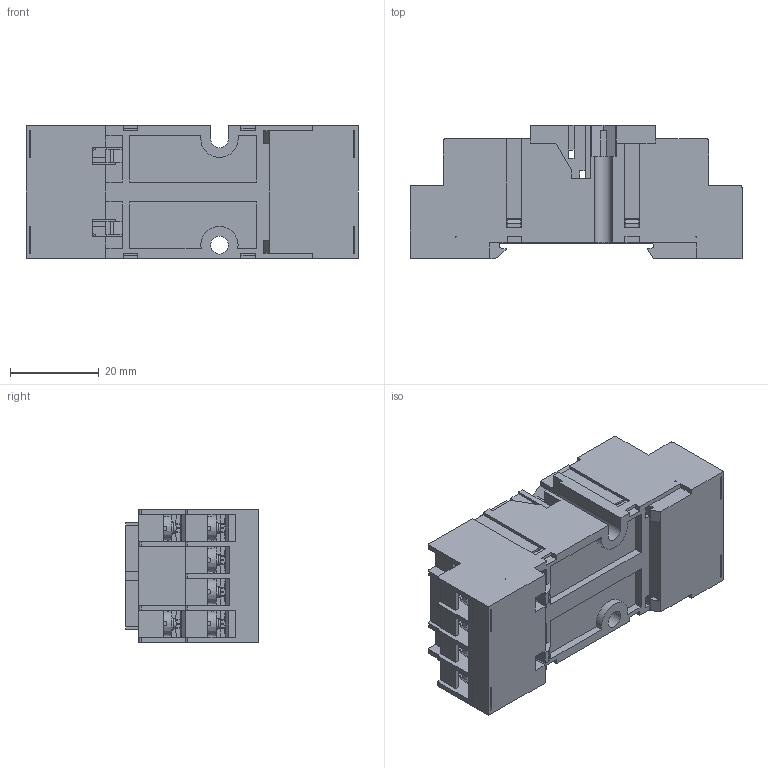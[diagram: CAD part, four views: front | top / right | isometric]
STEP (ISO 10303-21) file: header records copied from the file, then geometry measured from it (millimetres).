
FILE_DESCRIPTION(('STEP AP214'), '1');
FILE_NAME('Ðîçåòêà Ð30-004 (íà ïîêàç)', '', ('UNSPECIFIED'), ('UNSPECIFIED'), 'ASCON STEP Converter 1.6', 'ASCON Math Kernel', '');
FILE_SCHEMA(('AUTOMOTIVE_DESIGN { 1 0 10303 214 3 1 1}'));
Length unit declared in the file: millimetre
Bounding box: 74.9 x 30 x 30 mm (x, y, z)
Volume: 15980 mm3; surface area: 27565.9 mm2
Topology: 11 solids, 11 shells, 3005 faces, 8499 edges, 5500 vertices
Faces by surface type: plane 2083, cylinder 488, torus 196, bspline 140, cone 98
Full cylindrical faces by diameter (mm): 2.3 x14, 3 x29, 3.54 x14, 4 x1, 4.5 x14
Entity records: 145495 total; most frequent: CARTESIAN_POINT 47195, ORIENTED_EDGE 16714, DIRECTION 13401, EDGE_CURVE 8357, VERTEX_POINT 5500, LINE 5361, VECTOR 5361, AXIS2_PLACEMENT_3D 4020
